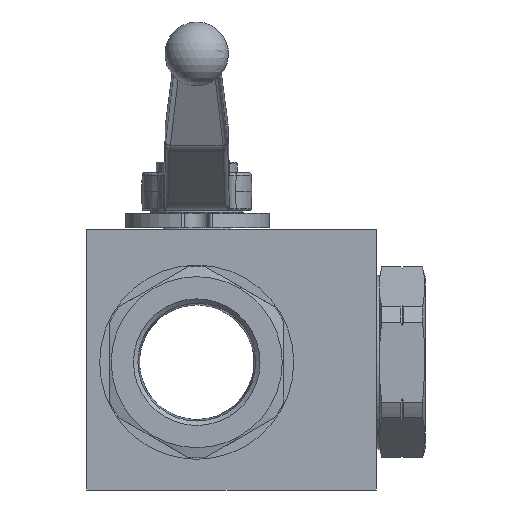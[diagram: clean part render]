
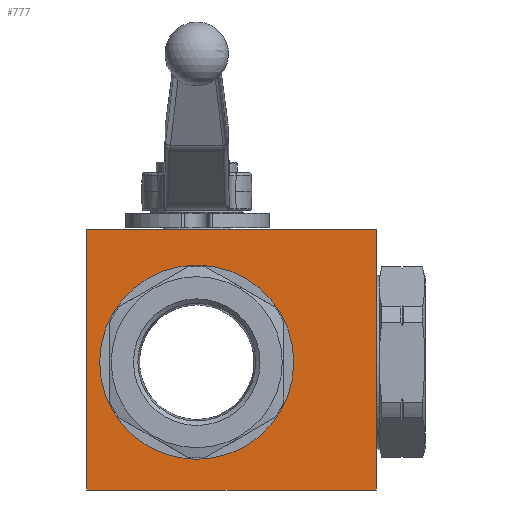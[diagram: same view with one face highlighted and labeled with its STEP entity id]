
A CAD part, front view. The second image highlights one B-rep face of the part: STEP entity #777.
In plain terms, the highlighted planar face has unit normal (0, -1, 0).
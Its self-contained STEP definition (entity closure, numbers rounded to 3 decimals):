
#777 = ADVANCED_FACE( '', ( #1746, #1747 ), #1748, .T. );
#1746 = FACE_OUTER_BOUND( '', #3202, .T. );
#1747 = FACE_BOUND( '', #3203, .T. );
#1748 = PLANE( '', #3204 );
#3202 = EDGE_LOOP( '', ( #5459, #5460, #5461, #5462 ) );
#3203 = EDGE_LOOP( '', ( #5463 ) );
#3204 = AXIS2_PLACEMENT_3D( '', #5464, #5465, #5466 );
#5459 = ORIENTED_EDGE( '', *, *, #8560, .T. );
#5460 = ORIENTED_EDGE( '', *, *, #8561, .F. );
#5461 = ORIENTED_EDGE( '', *, *, #8562, .F. );
#5462 = ORIENTED_EDGE( '', *, *, #8563, .T. );
#5463 = ORIENTED_EDGE( '', *, *, #8244, .T. );
#5464 = CARTESIAN_POINT( '', ( -38., -41., 45.9 ) );
#5465 = DIRECTION( '', ( 0., -1., 0. ) );
#5466 = DIRECTION( '', ( 0., 0., -1. ) );
#8244 = EDGE_CURVE( '', #9630, #9630, #9631, .T. );
#8560 = EDGE_CURVE( '', #10170, #10171, #10172, .T. );
#8561 = EDGE_CURVE( '', #10173, #10171, #10174, .T. );
#8562 = EDGE_CURVE( '', #10175, #10173, #10176, .T. );
#8563 = EDGE_CURVE( '', #10175, #10170, #10177, .T. );
#9630 = VERTEX_POINT( '', #11764 );
#9631 = CIRCLE( '', #11765, 33.5 );
#10170 = VERTEX_POINT( '', #12919 );
#10171 = VERTEX_POINT( '', #12920 );
#10172 = LINE( '', #12921, #12922 );
#10173 = VERTEX_POINT( '', #12923 );
#10174 = LINE( '', #12924, #12925 );
#10175 = VERTEX_POINT( '', #12926 );
#10176 = LINE( '', #12927, #12928 );
#10177 = LINE( '', #12929, #12930 );
#11764 = CARTESIAN_POINT( '', ( 33.5, -41., 0. ) );
#11765 = AXIS2_PLACEMENT_3D( '', #15799, #15800, #15801 );
#12919 = CARTESIAN_POINT( '', ( -38., -41., -44.1 ) );
#12920 = CARTESIAN_POINT( '', ( 62., -41., -44.1 ) );
#12921 = CARTESIAN_POINT( '', ( -38., -41., -44.1 ) );
#12922 = VECTOR( '', #16230, 1000. );
#12923 = CARTESIAN_POINT( '', ( 62., -41., 45.9 ) );
#12924 = CARTESIAN_POINT( '', ( 62., -41., 45.9 ) );
#12925 = VECTOR( '', #16231, 1000. );
#12926 = CARTESIAN_POINT( '', ( -38., -41., 45.9 ) );
#12927 = CARTESIAN_POINT( '', ( -38., -41., 45.9 ) );
#12928 = VECTOR( '', #16232, 1000. );
#12929 = CARTESIAN_POINT( '', ( -38., -41., 45.9 ) );
#12930 = VECTOR( '', #16233, 1000. );
#15799 = CARTESIAN_POINT( '', ( 0., -41., 0. ) );
#15800 = DIRECTION( '', ( 0., 1., 0. ) );
#15801 = DIRECTION( '', ( 1., 0., 0. ) );
#16230 = DIRECTION( '', ( 1., 0., 0. ) );
#16231 = DIRECTION( '', ( 0., 0., -1. ) );
#16232 = DIRECTION( '', ( 1., 0., 0. ) );
#16233 = DIRECTION( '', ( 0., 0., -1. ) );
